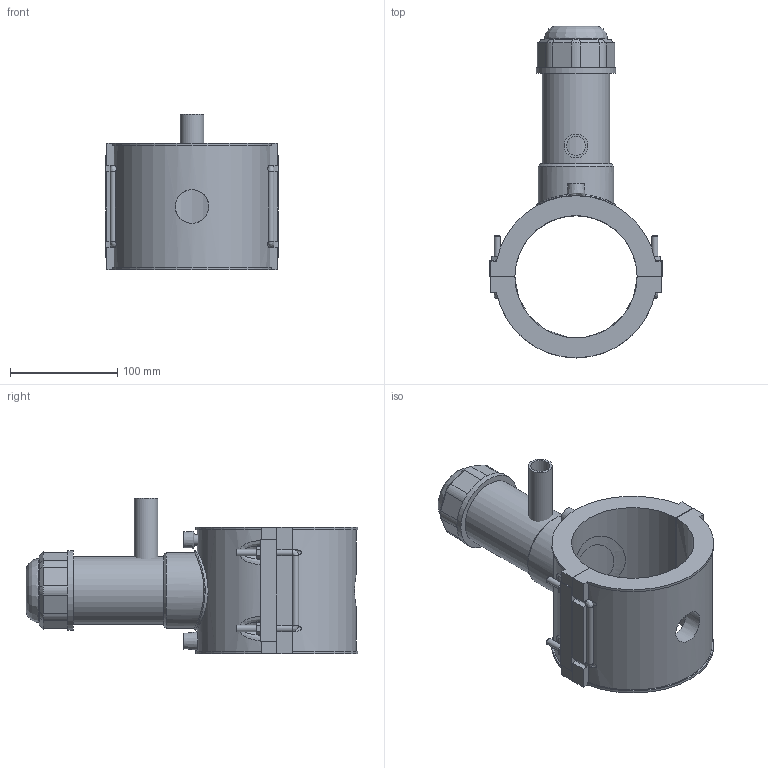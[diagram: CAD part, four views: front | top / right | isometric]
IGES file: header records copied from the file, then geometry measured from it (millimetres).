
Global section: file name: 5963BUP3040007.ipt; native system: Autodesk Inventor 2019; preprocessor: unknown; author: KIM; date: 20210830.101619; units: inch
Bounding box: 161 x 309.74 x 145.16 mm (x, y, z)
Volume: 1220651.3 mm3; surface area: 216192.7 mm2
Topology: 5 solids, 6 shells, 195 faces, 480 edges, 304 vertices
Faces by surface type: plane 112, cylinder 38, revolution 17, cone 15, bspline 13
Full cylindrical faces by diameter (mm): 4 x2, 6 x8, 22.1 x1, 59.332 x1, 63.04 x1, 70.457 x1, 74.165 x2
